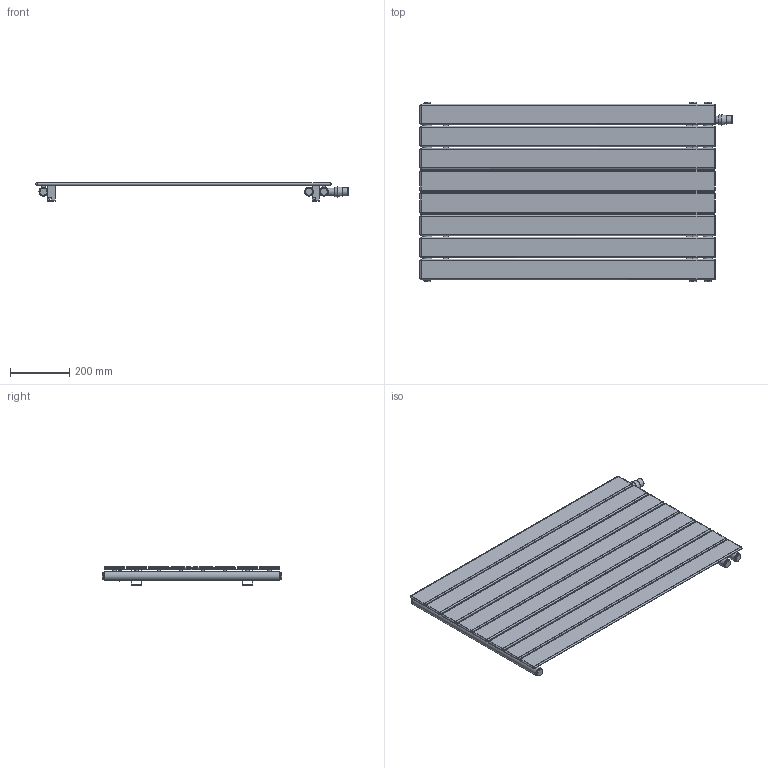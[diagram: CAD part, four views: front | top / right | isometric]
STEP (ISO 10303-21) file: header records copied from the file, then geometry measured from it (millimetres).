
FILE_DESCRIPTION(/* description */ (''),/* implementation_level */ '2;1');
FILE_NAME(/* name */ 'C:\Grzejniki\13DLUXRAD\pokojowe\NIAGARA\to\NIAGARA POZIOMA Z WKŁADKĄ TERMOSTATYCZNĄ 595x1000.iam.stp',/* time_stamp */ '2016-06-28T17:33:57+02:00',/* author */ ('m.szydziak'),/* organization */ (''),/* preprocessor_version */ 'ST-DEVELOPER v16.5',/* originating_system */ 'Autodesk Inventor 2017',/* authorisation */ '');
FILE_SCHEMA (('AUTOMOTIVE_DESIGN { 1 0 10303 214 3 1 1 }'));
Length unit declared in the file: millimetre
Products named in the file (10): NIAGARA POZIOMA Z WKŁADKĄ TERMOST
ATYCZNĄ 595x1000; NIAGARA 1000x595; 70x8x1,2x1004; michałek; ucho duze; ucho duze 2; poprzeczka 545; fi30x1,5x595; Głowica Termostatyczna; korek
Assembly tree (41 placements, depth 3):
  NIAGARA POZIOMA Z WKŁADKĄ TERMOST
ATYCZNĄ 595x1000
    NIAGARA 1000x595
      fi30x1,5x595  x2
      70x8x1,2x1004  x8
      michałek  x16
      ucho duze  x2
      ucho duze 2  x2
      korek  x4
      poprzeczka 545  x2
    fi30x1,5x595
    Głowica Termostatyczna
    korek  x2
Bounding box: 1056.85 x 607 x 62.5 mm (x, y, z)
Volume: 1818398 mm3; surface area: 2762119.6 mm2
Topology: 40 solids, 40 shells, 538 faces, 1191 edges, 733 vertices
Faces by surface type: plane 280, cylinder 188, sphere 64, torus 4, cone 2
Full cylindrical faces by diameter (mm): 8 x16, 9 x16, 10 x16, 11.5 x16, 18.631 x6, 24 x6, 25 x1, 27 x3, 28 x1, 30 x3
Entity records: 4105 total; most frequent: DIRECTION 728, CARTESIAN_POINT 700, ORIENTED_EDGE 548, AXIS2_PLACEMENT_3D 278, EDGE_CURVE 274, VERTEX_POINT 178, LINE 172, VECTOR 172
